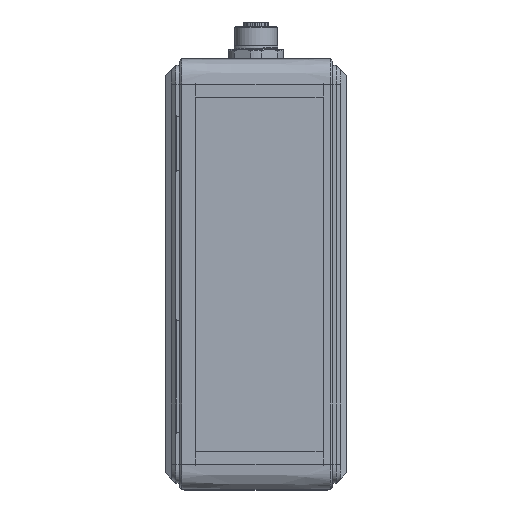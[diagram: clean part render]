
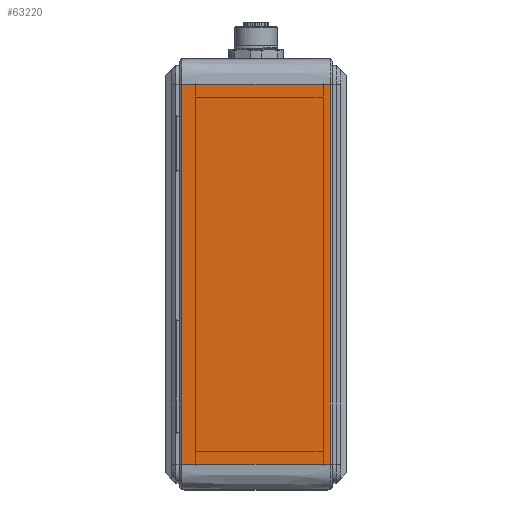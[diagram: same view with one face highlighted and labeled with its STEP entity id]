
A CAD part, left-side view. The second image highlights one B-rep face of the part: STEP entity #63220.
In plain terms, the highlighted planar face has unit normal (-1, 0, 0).
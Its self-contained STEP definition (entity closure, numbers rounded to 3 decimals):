
#158 = VERTEX_POINT ( 'NONE', #66705 ) ;
#497 = EDGE_CURVE ( 'NONE', #61016, #158, #6012, .T. ) ;
#3682 = CARTESIAN_POINT ( 'NONE',  ( -380., 23.2, -59.5 ) ) ;
#3691 = ORIENTED_EDGE ( 'NONE', *, *, #10519, .T. ) ;
#4068 = DIRECTION ( 'NONE',  ( 0., 0., -1. ) ) ;
#4659 = CARTESIAN_POINT ( 'NONE',  ( -380., -23.2, -59.5 ) ) ;
#5855 = EDGE_CURVE ( 'NONE', #158, #46468, #23976, .T. ) ;
#6012 = B_SPLINE_CURVE_WITH_KNOTS ( 'NONE', 3,
 ( #9705, #42238, #41902, #4659 ),
 .UNSPECIFIED., .F., .F.,
 ( 4, 4 ),
 ( 0.017, 0.983 ),
 .UNSPECIFIED. ) ;
#9705 = CARTESIAN_POINT ( 'NONE',  ( -380., 23.2, -59.5 ) ) ;
#10301 = CARTESIAN_POINT ( 'NONE',  ( -380., -7.733, 59.5 ) ) ;
#10519 = EDGE_CURVE ( 'NONE', #46468, #14156, #50686, .T. ) ;
#14156 = VERTEX_POINT ( 'NONE', #49398 ) ;
#18952 = CARTESIAN_POINT ( 'NONE',  ( -380., 24., -67.5 ) ) ;
#19598 = CARTESIAN_POINT ( 'NONE',  ( -380., -23.2, -67.5 ) ) ;
#23976 = LINE ( 'NONE', #19598, #39852 ) ;
#24916 = CARTESIAN_POINT ( 'NONE',  ( -380., 23.2, 59.5 ) ) ;
#29063 = DIRECTION ( 'NONE',  ( 0., 0., 1. ) ) ;
#29822 = EDGE_CURVE ( 'NONE', #14156, #61016, #44644, .T. ) ;
#30313 = CARTESIAN_POINT ( 'NONE',  ( -380., -23.2, 59.5 ) ) ;
#31489 = ORIENTED_EDGE ( 'NONE', *, *, #497, .T. ) ;
#34806 = DIRECTION ( 'NONE',  ( 0., 0., -1. ) ) ;
#37005 = ORIENTED_EDGE ( 'NONE', *, *, #29822, .T. ) ;
#39852 = VECTOR ( 'NONE', #29063, 1000. ) ;
#41902 = CARTESIAN_POINT ( 'NONE',  ( -380., -7.733, -59.5 ) ) ;
#42238 = CARTESIAN_POINT ( 'NONE',  ( -380., 7.733, -59.5 ) ) ;
#42388 = VECTOR ( 'NONE', #34806, 1000. ) ;
#44348 = FACE_OUTER_BOUND ( 'NONE', #64540, .T. ) ;
#44644 = LINE ( 'NONE', #3682, #42388 ) ;
#45585 = CARTESIAN_POINT ( 'NONE',  ( -380., -23.2, 59.5 ) ) ;
#46468 = VERTEX_POINT ( 'NONE', #30313 ) ;
#49398 = CARTESIAN_POINT ( 'NONE',  ( -380., 23.2, 59.5 ) ) ;
#49743 = DIRECTION ( 'NONE',  ( 1., 0., 0. ) ) ;
#50429 = PLANE ( 'NONE',  #51662 ) ;
#50686 = B_SPLINE_CURVE_WITH_KNOTS ( 'NONE', 3,
 ( #45585, #10301, #55321, #24916 ),
 .UNSPECIFIED., .F., .F.,
 ( 4, 4 ),
 ( 0.017, 0.983 ),
 .UNSPECIFIED. ) ;
#50905 = ORIENTED_EDGE ( 'NONE', *, *, #5855, .T. ) ;
#51662 = AXIS2_PLACEMENT_3D ( 'NONE', #18952, #49743, #4068 ) ;
#55321 = CARTESIAN_POINT ( 'NONE',  ( -380., 7.733, 59.5 ) ) ;
#61016 = VERTEX_POINT ( 'NONE', #66468 ) ;
#63220 = ADVANCED_FACE ( 'NONE', ( #44348 ), #50429, .F. ) ;
#64540 = EDGE_LOOP ( 'NONE', ( #3691, #37005, #31489, #50905 ) ) ;
#66468 = CARTESIAN_POINT ( 'NONE',  ( -380., 23.2, -59.5 ) ) ;
#66705 = CARTESIAN_POINT ( 'NONE',  ( -380., -23.2, -59.5 ) ) ;
